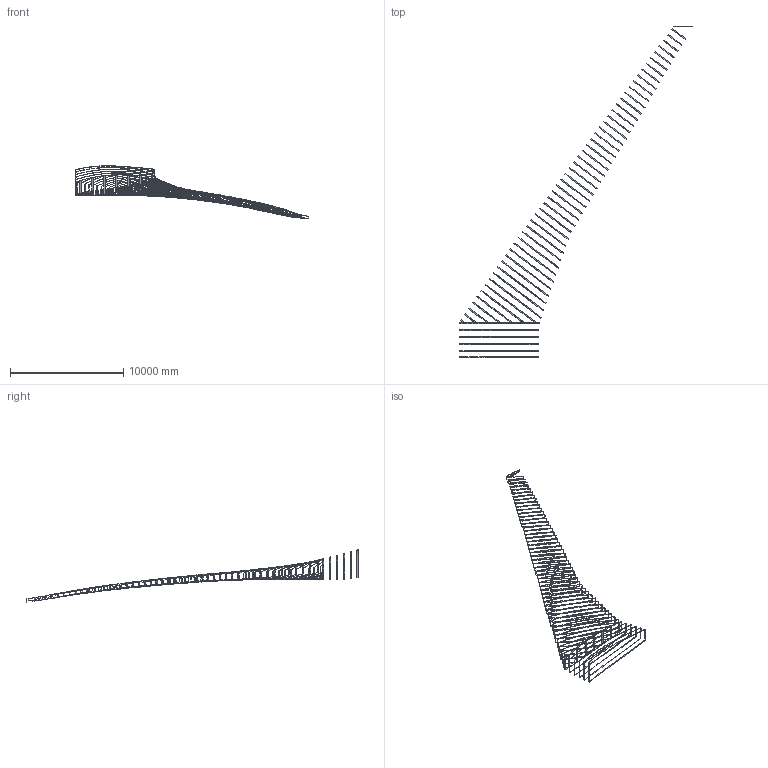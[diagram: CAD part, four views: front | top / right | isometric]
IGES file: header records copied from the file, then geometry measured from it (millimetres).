
Global section: file name: E:\temp\CRM_rib_caps.igs; native system: NX V8.5; preprocessor: SIEMENS PLM Software NX 8.5; date: 20140115.094358; units: inch
Bounding box: 20609.16 x 29282.47 x 4634.22 mm (x, y, z)
Surface area: 39509028.2 mm2 (no closed solid volume)
Topology: 0 solids, 0 shells, 248 faces, 1906 edges, 1906 vertices
Faces by surface type: bspline 248
